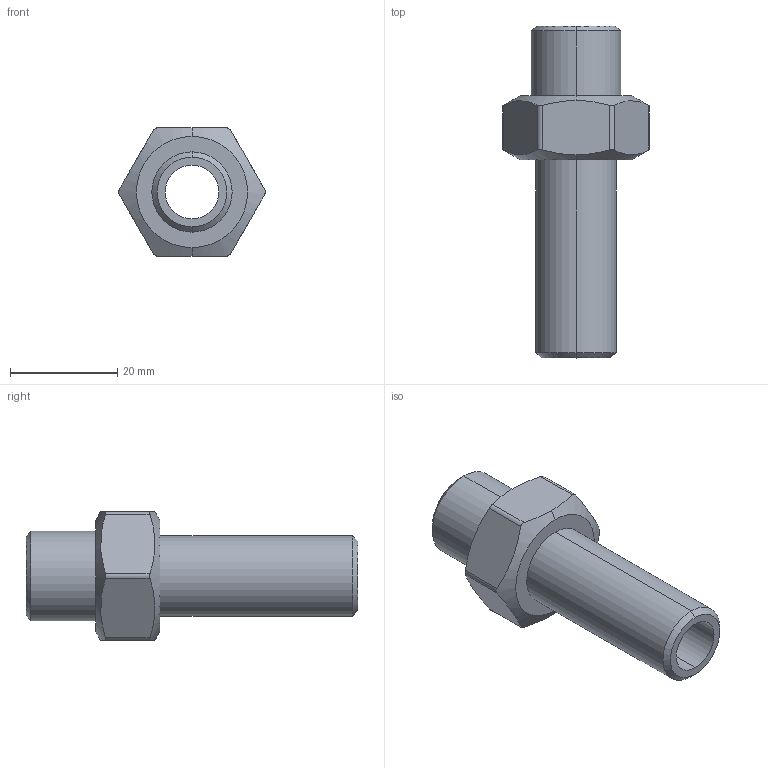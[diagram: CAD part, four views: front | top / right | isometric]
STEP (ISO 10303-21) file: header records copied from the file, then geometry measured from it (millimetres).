
FILE_DESCRIPTION (( 'STEP AP214' ), '1' );
FILE_NAME ('R238.015.038.STEP', '2019-10-24T13:45:52', ( '' ), ( '' ), 'SwSTEP 2.0', 'SolidWorks 2018', '' );
FILE_SCHEMA (( 'AUTOMOTIVE_DESIGN' ));
Length unit declared in the file: millimetre
Products named in the file (1): R238.015.038
Bounding box: 27.4 x 62 x 24 mm (x, y, z)
Volume: 10219.5 mm3; surface area: 5980.7 mm2
Topology: 1 solids, 1 shells, 30 faces, 74 edges, 48 vertices
Faces by surface type: cylinder 12, plane 10, cone 8
Entity records: 1086 total; most frequent: CARTESIAN_POINT 349, ORIENTED_EDGE 148, DIRECTION 128, EDGE_CURVE 74, AXIS2_PLACEMENT_3D 51, VERTEX_POINT 48, EDGE_LOOP 34, FACE_OUTER_BOUND 30
